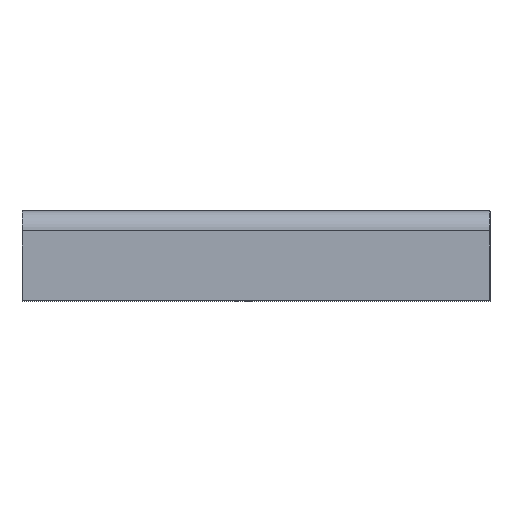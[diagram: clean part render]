
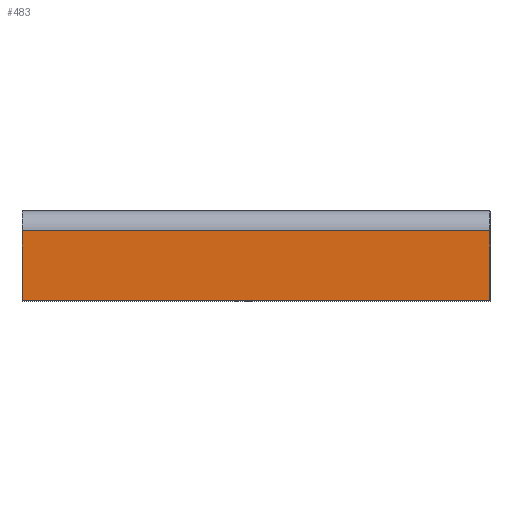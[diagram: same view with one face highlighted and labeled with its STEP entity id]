
A CAD part, top view. The second image highlights one B-rep face of the part: STEP entity #483.
In plain terms, the highlighted planar face has unit normal (0, 0, 1).
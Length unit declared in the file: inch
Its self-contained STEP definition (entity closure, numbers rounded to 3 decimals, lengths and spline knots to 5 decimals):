
#297 = VERTEX_POINT ( 'NONE', #1129 ) ;
#299 = EDGE_CURVE ( 'NONE', #513, #297, #1128, .T. ) ;
#439 = EDGE_CURVE ( 'NONE', #297, #477, #1346, .T. ) ;
#440 = ORIENTED_EDGE ( 'NONE', *, *, #476, .T. ) ;
#476 = EDGE_CURVE ( 'NONE', #477, #500, #1362, .T. ) ;
#477 = VERTEX_POINT ( 'NONE', #1358 ) ;
#483 = ADVANCED_FACE ( 'NONE', ( #1439 ), #1438, .F. ) ;
#484 = EDGE_LOOP ( 'NONE', ( #485, #486, #487, #440 ) ) ;
#485 = ORIENTED_EDGE ( 'NONE', *, *, #496, .F. ) ;
#486 = ORIENTED_EDGE ( 'NONE', *, *, #299, .T. ) ;
#487 = ORIENTED_EDGE ( 'NONE', *, *, #439, .T. ) ;
#496 = EDGE_CURVE ( 'NONE', #513, #500, #1422, .T. ) ;
#500 = VERTEX_POINT ( 'NONE', #1415 ) ;
#513 = VERTEX_POINT ( 'NONE', #1357 ) ;
#1125 = DIRECTION ( 'NONE',  ( 0., -1., 0. ) ) ;
#1126 = VECTOR ( 'NONE', #1125, 39.37008 ) ;
#1127 = CARTESIAN_POINT ( 'NONE',  ( 0., 0., 0. ) ) ;
#1128 = LINE ( 'NONE', #1127, #1126 ) ;
#1129 = CARTESIAN_POINT ( 'NONE',  ( 0., -2.25, 0. ) ) ;
#1332 = DIRECTION ( 'NONE',  ( 1., 0., 0. ) ) ;
#1333 = VECTOR ( 'NONE', #1332, 39.37008 ) ;
#1340 = CARTESIAN_POINT ( 'NONE',  ( 0., -2.25, 0. ) ) ;
#1346 = LINE ( 'NONE', #1340, #1333 ) ;
#1357 = CARTESIAN_POINT ( 'NONE',  ( 0., -0.3125, 0. ) ) ;
#1358 = CARTESIAN_POINT ( 'NONE',  ( 13., -2.25, 0. ) ) ;
#1359 = DIRECTION ( 'NONE',  ( 0., 1., 0. ) ) ;
#1360 = VECTOR ( 'NONE', #1359, 39.37008 ) ;
#1361 = CARTESIAN_POINT ( 'NONE',  ( 13., 0., 0. ) ) ;
#1362 = LINE ( 'NONE', #1361, #1360 ) ;
#1415 = CARTESIAN_POINT ( 'NONE',  ( 13., -0.3125, 0. ) ) ;
#1419 = DIRECTION ( 'NONE',  ( 1., 0., 0. ) ) ;
#1420 = VECTOR ( 'NONE', #1419, 39.37008 ) ;
#1421 = CARTESIAN_POINT ( 'NONE',  ( 13., -0.3125, 0. ) ) ;
#1422 = LINE ( 'NONE', #1421, #1420 ) ;
#1433 = DIRECTION ( 'NONE',  ( 0., 1., 0. ) ) ;
#1434 = DIRECTION ( 'NONE',  ( 0., 0., -1. ) ) ;
#1435 = CARTESIAN_POINT ( 'NONE',  ( 0., 0., 0. ) ) ;
#1437 = AXIS2_PLACEMENT_3D ( 'NONE', #1435, #1434, #1433 ) ;
#1438 = PLANE ( 'NONE',  #1437 ) ;
#1439 = FACE_OUTER_BOUND ( 'NONE', #484, .T. ) ;
